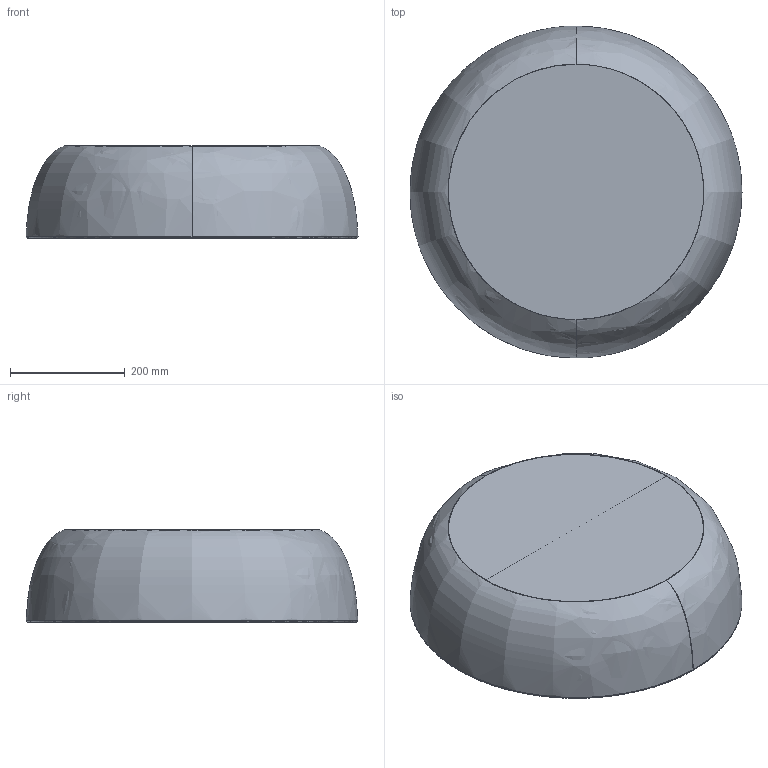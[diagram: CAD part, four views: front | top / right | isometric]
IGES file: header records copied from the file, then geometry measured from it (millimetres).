
Start section: SolidWorks IGES file using analytic representation for surfaces
Global section: file name: C:\Users\anna.bielnik\Desktop\modele 3D tymczasowe\SATELITE\SATELLITE-M-8017-8016-8018-8020\SATELLITE 580 - z³o¿enie pm.IGS; native system: SolidWorks 2023; preprocessor: SolidWorks 2023; author: anna.bielnik; date: 230628.113451; units: millimetre
Bounding box: 579.51 x 579.51 x 160.6 mm (x, y, z)
Surface area: 1566342.2 mm2 (no closed solid volume)
Topology: 0 solids, 0 shells, 82 faces, 1188 edges, 1172 vertices
Faces by surface type: bspline 62, revolution 20
